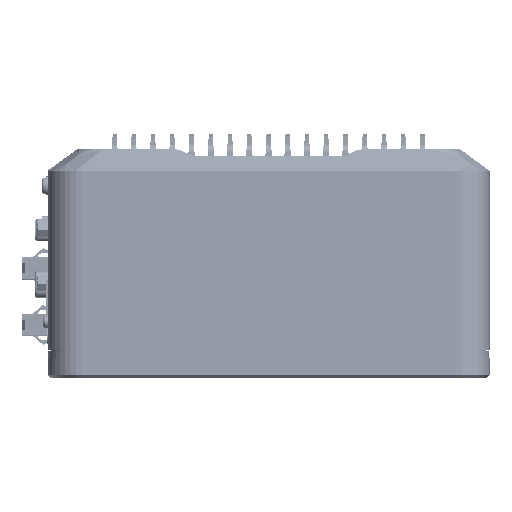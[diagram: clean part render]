
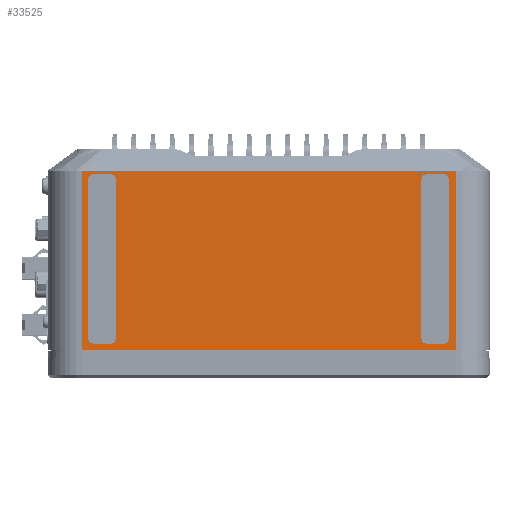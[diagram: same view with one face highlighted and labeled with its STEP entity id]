
A CAD part, front view. The second image highlights one B-rep face of the part: STEP entity #33525.
In plain terms, the highlighted planar face has unit normal (0, -1, 0).
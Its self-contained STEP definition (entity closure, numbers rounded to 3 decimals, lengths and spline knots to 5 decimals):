
#12113=DIRECTION('',(0.,0.,1.));
#12114=VECTOR('',#12113,0.0633);
#12115=CARTESIAN_POINT('',(-0.066,-0.1015,-0.062));
#12116=LINE('',#12115,#12114);
#12333=CARTESIAN_POINT('',(-0.05575,-0.1015,-0.05775));
#12334=DIRECTION('',(0.,1.,0.));
#12335=DIRECTION('',(1.,0.,0.));
#12336=AXIS2_PLACEMENT_3D('',#12333,#12334,#12335);
#12338=CARTESIAN_POINT('',(-0.05575,-0.1015,-0.00175));
#12339=DIRECTION('',(0.,1.,0.));
#12340=DIRECTION('',(0.,0.,1.));
#12341=AXIS2_PLACEMENT_3D('',#12338,#12339,#12340);
#12343=CARTESIAN_POINT('',(-0.06175,-0.1015,-0.00175));
#12344=DIRECTION('',(0.,1.,0.));
#12345=DIRECTION('',(-1.,0.,0.));
#12346=AXIS2_PLACEMENT_3D('',#12343,#12344,#12345);
#12348=CARTESIAN_POINT('',(-0.06175,-0.1015,-0.05775));
#12349=DIRECTION('',(0.,1.,0.));
#12350=DIRECTION('',(0.,0.,-1.));
#12351=AXIS2_PLACEMENT_3D('',#12348,#12349,#12350);
#12353=CARTESIAN_POINT('',(0.05575,-0.1015,-0.05775));
#12354=DIRECTION('',(0.,1.,0.));
#12355=DIRECTION('',(0.,0.,-1.));
#12356=AXIS2_PLACEMENT_3D('',#12353,#12354,#12355);
#12358=CARTESIAN_POINT('',(0.06175,-0.1015,-0.05775));
#12359=DIRECTION('',(0.,1.,0.));
#12360=DIRECTION('',(1.,0.,0.));
#12361=AXIS2_PLACEMENT_3D('',#12358,#12359,#12360);
#12363=CARTESIAN_POINT('',(0.06175,-0.1015,-0.00175));
#12364=DIRECTION('',(0.,1.,0.));
#12365=DIRECTION('',(0.,0.,1.));
#12366=AXIS2_PLACEMENT_3D('',#12363,#12364,#12365);
#12368=CARTESIAN_POINT('',(0.05575,-0.1015,-0.00175));
#12369=DIRECTION('',(0.,1.,0.));
#12370=DIRECTION('',(-1.,0.,0.));
#12371=AXIS2_PLACEMENT_3D('',#12368,#12369,#12370);
#12373=DIRECTION('',(-1.,0.,0.));
#12374=VECTOR('',#12373,0.132);
#12375=CARTESIAN_POINT('',(0.066,-0.1015,0.0013));
#12376=LINE('',#12375,#12374);
#12377=DIRECTION('',(1.,0.,0.));
#12378=VECTOR('',#12377,0.132);
#12379=CARTESIAN_POINT('',(-0.066,-0.1015,-0.062));
#12380=LINE('',#12379,#12378);
#12381=DIRECTION('',(1.,0.,0.));
#12382=VECTOR('',#12381,0.006);
#12383=CARTESIAN_POINT('',(-0.06175,-0.1015,-0.0596));
#12384=LINE('',#12383,#12382);
#12393=DIRECTION('',(0.,0.,1.));
#12394=VECTOR('',#12393,0.056);
#12395=CARTESIAN_POINT('',(-0.0539,-0.1015,-0.05775));
#12396=LINE('',#12395,#12394);
#12405=DIRECTION('',(-1.,0.,0.));
#12406=VECTOR('',#12405,0.006);
#12407=CARTESIAN_POINT('',(-0.05575,-0.1015,0.0001));
#12408=LINE('',#12407,#12406);
#12417=DIRECTION('',(0.,0.,-1.));
#12418=VECTOR('',#12417,0.056);
#12419=CARTESIAN_POINT('',(-0.0636,-0.1015,-0.00175));
#12420=LINE('',#12419,#12418);
#12465=DIRECTION('',(0.,0.,-1.));
#12466=VECTOR('',#12465,0.056);
#12467=CARTESIAN_POINT('',(0.0539,-0.1015,-0.00175));
#12468=LINE('',#12467,#12466);
#12477=DIRECTION('',(1.,0.,0.));
#12478=VECTOR('',#12477,0.006);
#12479=CARTESIAN_POINT('',(0.05575,-0.1015,-0.0596));
#12480=LINE('',#12479,#12478);
#12489=DIRECTION('',(0.,0.,1.));
#12490=VECTOR('',#12489,0.056);
#12491=CARTESIAN_POINT('',(0.0636,-0.1015,-0.05775));
#12492=LINE('',#12491,#12490);
#12501=DIRECTION('',(-1.,0.,0.));
#12502=VECTOR('',#12501,0.006);
#12503=CARTESIAN_POINT('',(0.06175,-0.1015,0.0001));
#12504=LINE('',#12503,#12502);
#12558=DIRECTION('',(0.,0.,-1.));
#12559=VECTOR('',#12558,0.0633);
#12560=CARTESIAN_POINT('',(0.066,-0.1015,0.0013));
#12561=LINE('',#12560,#12559);
#15952=CARTESIAN_POINT('',(-0.066,-0.1015,0.0013));
#15953=VERTEX_POINT('',#15952);
#15954=CARTESIAN_POINT('',(-0.066,-0.1015,-0.062));
#15955=VERTEX_POINT('',#15954);
#15997=CARTESIAN_POINT('',(0.066,-0.1015,0.0013));
#15998=VERTEX_POINT('',#15997);
#16052=CARTESIAN_POINT('',(0.066,-0.1015,-0.062));
#16053=VERTEX_POINT('',#16052);
#16086=CARTESIAN_POINT('',(0.05575,-0.1015,-0.0596));
#16087=CARTESIAN_POINT('',(0.0539,-0.1015,-0.05775));
#16088=VERTEX_POINT('',#16086);
#16089=VERTEX_POINT('',#16087);
#16090=CARTESIAN_POINT('',(0.06175,-0.1015,-0.0596));
#16091=VERTEX_POINT('',#16090);
#16092=CARTESIAN_POINT('',(0.0636,-0.1015,-0.05775));
#16093=VERTEX_POINT('',#16092);
#16094=CARTESIAN_POINT('',(0.0636,-0.1015,-0.00175));
#16095=VERTEX_POINT('',#16094);
#16096=CARTESIAN_POINT('',(0.06175,-0.1015,0.0001));
#16097=VERTEX_POINT('',#16096);
#16098=CARTESIAN_POINT('',(0.05575,-0.1015,0.0001));
#16099=VERTEX_POINT('',#16098);
#16100=CARTESIAN_POINT('',(0.0539,-0.1015,-0.00175));
#16101=VERTEX_POINT('',#16100);
#16102=CARTESIAN_POINT('',(-0.0539,-0.1015,-0.05775));
#16103=CARTESIAN_POINT('',(-0.05575,-0.1015,-0.0596));
#16104=VERTEX_POINT('',#16102);
#16105=VERTEX_POINT('',#16103);
#16106=CARTESIAN_POINT('',(-0.0539,-0.1015,-0.00175));
#16107=VERTEX_POINT('',#16106);
#16108=CARTESIAN_POINT('',(-0.05575,-0.1015,0.0001));
#16109=VERTEX_POINT('',#16108);
#16110=CARTESIAN_POINT('',(-0.06175,-0.1015,0.0001));
#16111=VERTEX_POINT('',#16110);
#16112=CARTESIAN_POINT('',(-0.0636,-0.1015,-0.00175));
#16113=VERTEX_POINT('',#16112);
#16114=CARTESIAN_POINT('',(-0.0636,-0.1015,-0.05775));
#16115=VERTEX_POINT('',#16114);
#16116=CARTESIAN_POINT('',(-0.06175,-0.1015,-0.0596));
#16117=VERTEX_POINT('',#16116);
#33477=CARTESIAN_POINT('',(0.078,-0.1015,-0.061));
#33478=DIRECTION('',(0.,-1.,0.));
#33479=DIRECTION('',(-1.,0.,0.));
#33480=AXIS2_PLACEMENT_3D('',#33477,#33478,#33479);
#33481=PLANE('',#33480);
#33482=ORIENTED_EDGE('',*,*,#29513,.F.);
#33484=ORIENTED_EDGE('',*,*,#33483,.T.);
#33485=ORIENTED_EDGE('',*,*,#33387,.F.);
#33486=ORIENTED_EDGE('',*,*,#33172,.T.);
#33487=EDGE_LOOP('',(#33482,#33484,#33485,#33486));
#33488=FACE_OUTER_BOUND('',#33487,.F.);
#33490=ORIENTED_EDGE('',*,*,#33489,.T.);
#33492=ORIENTED_EDGE('',*,*,#33491,.F.);
#33494=ORIENTED_EDGE('',*,*,#33493,.T.);
#33496=ORIENTED_EDGE('',*,*,#33495,.F.);
#33498=ORIENTED_EDGE('',*,*,#33497,.T.);
#33500=ORIENTED_EDGE('',*,*,#33499,.F.);
#33502=ORIENTED_EDGE('',*,*,#33501,.T.);
#33504=ORIENTED_EDGE('',*,*,#33503,.F.);
#33505=EDGE_LOOP('',(#33490,#33492,#33494,#33496,#33498,#33500,#33502,#33504));
#33506=FACE_BOUND('',#33505,.F.);
#33508=ORIENTED_EDGE('',*,*,#33507,.T.);
#33510=ORIENTED_EDGE('',*,*,#33509,.F.);
#33512=ORIENTED_EDGE('',*,*,#33511,.T.);
#33514=ORIENTED_EDGE('',*,*,#33513,.F.);
#33516=ORIENTED_EDGE('',*,*,#33515,.T.);
#33518=ORIENTED_EDGE('',*,*,#33517,.F.);
#33520=ORIENTED_EDGE('',*,*,#33519,.T.);
#33522=ORIENTED_EDGE('',*,*,#33521,.F.);
#33523=EDGE_LOOP('',(#33508,#33510,#33512,#33514,#33516,#33518,#33520,#33522));
#33524=FACE_BOUND('',#33523,.F.);
#12337=CIRCLE('',#12336,0.00185);
#12342=CIRCLE('',#12341,0.00185);
#12347=CIRCLE('',#12346,0.00185);
#12352=CIRCLE('',#12351,0.00185);
#12357=CIRCLE('',#12356,0.00185);
#12362=CIRCLE('',#12361,0.00185);
#12367=CIRCLE('',#12366,0.00185);
#12372=CIRCLE('',#12371,0.00185);
#29513=EDGE_CURVE('',#15998,#15953,#12376,.T.);
#33172=EDGE_CURVE('',#15955,#15953,#12116,.T.);
#33387=EDGE_CURVE('',#15955,#16053,#12380,.T.);
#33483=EDGE_CURVE('',#15998,#16053,#12561,.T.);
#33489=EDGE_CURVE('',#16101,#16089,#12468,.T.);
#33491=EDGE_CURVE('',#16088,#16089,#12357,.T.);
#33493=EDGE_CURVE('',#16088,#16091,#12480,.T.);
#33495=EDGE_CURVE('',#16093,#16091,#12362,.T.);
#33497=EDGE_CURVE('',#16093,#16095,#12492,.T.);
#33499=EDGE_CURVE('',#16097,#16095,#12367,.T.);
#33501=EDGE_CURVE('',#16097,#16099,#12504,.T.);
#33503=EDGE_CURVE('',#16101,#16099,#12372,.T.);
#33507=EDGE_CURVE('',#16117,#16105,#12384,.T.);
#33509=EDGE_CURVE('',#16104,#16105,#12337,.T.);
#33511=EDGE_CURVE('',#16104,#16107,#12396,.T.);
#33513=EDGE_CURVE('',#16109,#16107,#12342,.T.);
#33515=EDGE_CURVE('',#16109,#16111,#12408,.T.);
#33517=EDGE_CURVE('',#16113,#16111,#12347,.T.);
#33519=EDGE_CURVE('',#16113,#16115,#12420,.T.);
#33521=EDGE_CURVE('',#16117,#16115,#12352,.T.);
#33525=ADVANCED_FACE('',(#33488,#33506,#33524),#33481,.T.);
